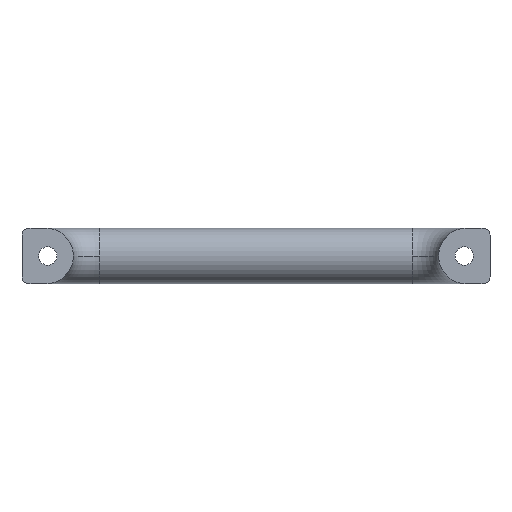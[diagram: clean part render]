
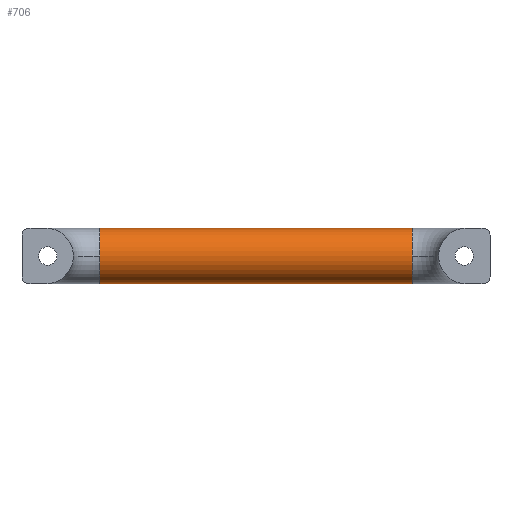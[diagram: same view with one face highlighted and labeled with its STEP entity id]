
A CAD part, front view. The second image highlights one B-rep face of the part: STEP entity #706.
In plain terms, the highlighted cylindrical face has radius 8 mm (diameter 16 mm), a partial arc.
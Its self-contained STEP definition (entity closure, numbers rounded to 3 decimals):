
#105 = EDGE_CURVE ( 'NONE', #743, #741, #1158, .T. ) ;
#109 = EDGE_CURVE ( 'NONE', #591, #592, #1163, .T. ) ;
#158 = EDGE_CURVE ( 'NONE', #592, #722, #460, .T. ) ;
#159 = EDGE_CURVE ( 'NONE', #722, #577, #462, .T. ) ;
#160 = EDGE_CURVE ( 'NONE', #741, #577, #463, .T. ) ;
#161 = EDGE_CURVE ( 'NONE', #591, #743, #467, .T. ) ;
#286 = AXIS2_PLACEMENT_3D ( 'NONE', #1778, #1779, #1780 ) ;
#290 = AXIS2_PLACEMENT_3D ( 'NONE', #2158, #2159, #2160 ) ;
#308 = AXIS2_PLACEMENT_3D ( 'NONE', #2213, #2214, #2215 ) ;
#309 = AXIS2_PLACEMENT_3D ( 'NONE', #2217, #2218, #2219 ) ;
#400 = AXIS2_PLACEMENT_3D ( 'NONE', #1584, #1581, #1577 ) ;
#460 = CIRCLE ( 'NONE', #308, 8. ) ;
#462 = LINE ( 'NONE', #2202, #464 ) ;
#463 = CIRCLE ( 'NONE', #309, 8. ) ;
#464 = VECTOR ( 'NONE', #2197, 1000. ) ;
#467 = LINE ( 'NONE', #2216, #468 ) ;
#468 = VECTOR ( 'NONE', #2212, 1000. ) ;
#577 = VERTEX_POINT ( 'NONE', #2036 ) ;
#582 = EDGE_LOOP ( 'NONE', ( #728, #729, #730, #731, #732, #733 ) ) ;
#591 = VERTEX_POINT ( 'NONE', #2047 ) ;
#592 = VERTEX_POINT ( 'NONE', #2048 ) ;
#706 = ADVANCED_FACE ( 'NONE', ( #1459 ), #1461, .T. ) ;
#722 = VERTEX_POINT ( 'NONE', #1632 ) ;
#728 = ORIENTED_EDGE ( 'NONE', *, *, #109, .T. ) ;
#729 = ORIENTED_EDGE ( 'NONE', *, *, #158, .T. ) ;
#730 = ORIENTED_EDGE ( 'NONE', *, *, #159, .T. ) ;
#731 = ORIENTED_EDGE ( 'NONE', *, *, #160, .F. ) ;
#732 = ORIENTED_EDGE ( 'NONE', *, *, #105, .F. ) ;
#733 = ORIENTED_EDGE ( 'NONE', *, *, #161, .F. ) ;
#741 = VERTEX_POINT ( 'NONE', #1639 ) ;
#743 = VERTEX_POINT ( 'NONE', #1637 ) ;
#1158 = CIRCLE ( 'NONE', #286, 8. ) ;
#1163 = CIRCLE ( 'NONE', #290, 8. ) ;
#1459 = FACE_OUTER_BOUND ( 'NONE', #582, .T. ) ;
#1461 = CYLINDRICAL_SURFACE ( 'NONE', #400, 8. ) ;
#1577 = DIRECTION ( 'NONE',  ( 0., 0., -1. ) ) ;
#1581 = DIRECTION ( 'NONE',  ( 1., 0., 0. ) ) ;
#1584 = CARTESIAN_POINT ( 'NONE',  ( 15., 40.6, 0. ) ) ;
#1632 = CARTESIAN_POINT ( 'NONE',  ( 15., 40.6, -8. ) ) ;
#1637 = CARTESIAN_POINT ( 'NONE',  ( 105., 40.6, 8. ) ) ;
#1639 = CARTESIAN_POINT ( 'NONE',  ( 105., 32.6, 0. ) ) ;
#1778 = CARTESIAN_POINT ( 'NONE',  ( 105., 40.6, 0. ) ) ;
#1779 = DIRECTION ( 'NONE',  ( 1., 0., 0. ) ) ;
#1780 = DIRECTION ( 'NONE',  ( 0., 0., 1. ) ) ;
#2036 = CARTESIAN_POINT ( 'NONE',  ( 105., 40.6, -8. ) ) ;
#2047 = CARTESIAN_POINT ( 'NONE',  ( 15., 40.6, 8. ) ) ;
#2048 = CARTESIAN_POINT ( 'NONE',  ( 15., 32.6, 0. ) ) ;
#2158 = CARTESIAN_POINT ( 'NONE',  ( 15., 40.6, 0. ) ) ;
#2159 = DIRECTION ( 'NONE',  ( 1., 0., 0. ) ) ;
#2160 = DIRECTION ( 'NONE',  ( 0., 0., 1. ) ) ;
#2197 = DIRECTION ( 'NONE',  ( 1., 0., 0. ) ) ;
#2202 = CARTESIAN_POINT ( 'NONE',  ( 15., 40.6, -8. ) ) ;
#2212 = DIRECTION ( 'NONE',  ( 1., 0., 0. ) ) ;
#2213 = CARTESIAN_POINT ( 'NONE',  ( 15., 40.6, 0. ) ) ;
#2214 = DIRECTION ( 'NONE',  ( 1., 0., 0. ) ) ;
#2215 = DIRECTION ( 'NONE',  ( 0., 0., 1. ) ) ;
#2216 = CARTESIAN_POINT ( 'NONE',  ( 15., 40.6, 8. ) ) ;
#2217 = CARTESIAN_POINT ( 'NONE',  ( 105., 40.6, 0. ) ) ;
#2218 = DIRECTION ( 'NONE',  ( 1., 0., 0. ) ) ;
#2219 = DIRECTION ( 'NONE',  ( 0., 0., 1. ) ) ;
